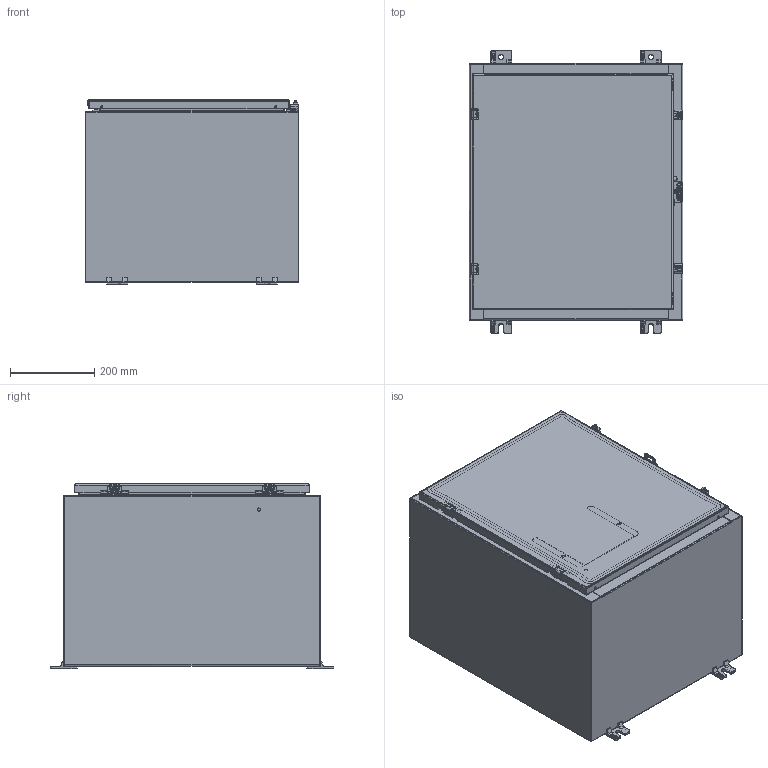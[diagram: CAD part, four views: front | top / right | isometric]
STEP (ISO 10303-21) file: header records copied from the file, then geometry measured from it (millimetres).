
FILE_DESCRIPTION((''),'2;1');
FILE_NAME('MODEL-309_ASM','2024-09-26T14:19:40',('richards'),('SAGINAW CONTROL & ENGINEERING'),'CREO PARAMETRIC BY PTC INC, 2021284','CREO PARAMETRIC BY PTC INC, 2021284','');
FILE_SCHEMA(('AUTOMOTIVE_DESIGN { 1 0 10303 214 1 1 1 1 }'));
Length unit declared in the file: inch
Products named in the file (35): MODEL-309-BDY; MODEL-309-TP; MODEL-309-BTM; MODEL-309-DR; 100837; 100882; 111541; MODEL-309-DOOR-GASKET; 126391; 126391_ASM; 126393; 102483; 101226; 101376; 102140; 115117; MODEL-309-DOOR-ASSY_ASM; 128630; 100059; 128630_ASM; 100921; 128631; 128631_ASM; 101653; 121452; 120132_BASE; 120132_CLAMP; 120132_SCREW; 120132_SPRING; 120132_ASM; 120133; SUBPANEL; 100904; SUBPANEL-SUBASSEMBLY_ASM; MODEL-309_ASM
Assembly tree (65 placements, depth 4):
  MODEL-309_ASM
    MODEL-309-BDY
    MODEL-309-TP
    MODEL-309-BTM
    MODEL-309-DOOR-ASSY_ASM
      MODEL-309-DR
      100837  x3
      100882  x2
      111541
      MODEL-309-DOOR-GASKET
      126391_ASM  x2
        126391
      126393  x2
      102483  x7
      101226  x2
      101376  x2
      102140  x2
      115117
    128630_ASM  x2
      128630
      100059
    100921  x4
    128631_ASM  x2
      128631
      100059
    100837
    101653  x4
    121452
    120132_ASM  x2
      120132_BASE
      120132_CLAMP
      120132_SCREW
      120132_SPRING
    100882  x3
    120133
    SUBPANEL-SUBASSEMBLY_ASM
      SUBPANEL
      100904  x4
Bounding box: 508 x 673.1 x 440.51 mm (x, y, z)
Volume: 4277657 mm3; surface area: 4016221.8 mm2
Topology: 65 solids, 65 shells, 4738 faces, 12123 edges, 7604 vertices
Faces by surface type: plane 1733, cylinder 1297, bspline 941, torus 526, cone 140, sphere 101
Entity records: 113579 total; most frequent: CARTESIAN_POINT 35803, ORIENTED_EDGE 11508, DIRECTION 11110, PRESENTATION_STYLE_ASSIGNMENT 5887, STYLED_ITEM 5887, CURVE_STYLE 5754, EDGE_CURVE 5754, AXIS2_PLACEMENT_3D 4135
